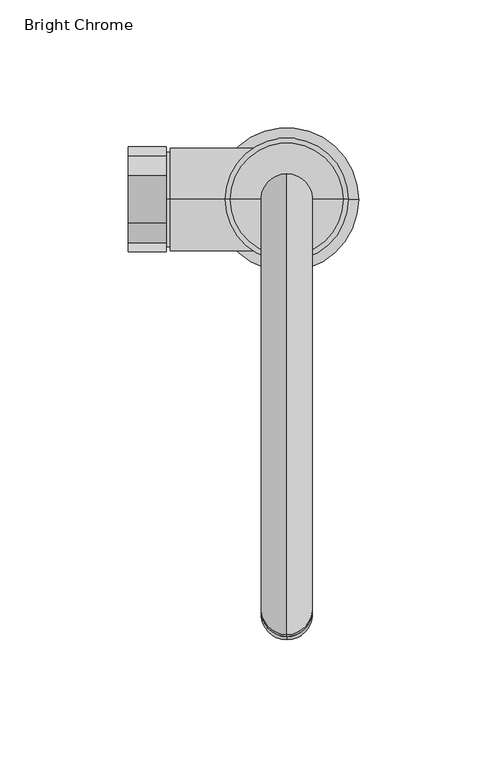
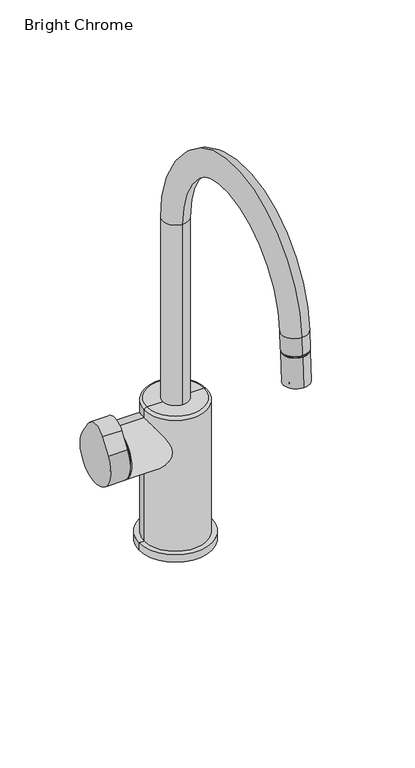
"""IFC4 building model written with IfcOpenShell, lengths in millimetres: flow terminal geometry, z_PlumFixt_Zip_Arc : Bright Chrome."""

from ifc_helpers import new_model, si_unit, point, frame, frame_2d, origin, place, context, project, spatial, polyline, circle_curve, ellipse_curve, trimmed, segment, composite_curve, outline, extrude, source, transform, mapped, element, save
from ifc_brep_helpers import plane_surface, cylinder_surface, revolved_surface, advanced_brep


def bright_chrome_7ff5033f(model_context):
    return source(origin(), model_context, "Body", "SolidModel", [
        extrude(outline(composite_curve([segment(trimmed(circle_curve(frame_2d((10.65, 87.5)), 6.35), [point((17.0, 87.5))], [point((4.3, 87.5))], False, "CARTESIAN"), True, "CONTINUOUS"), segment(trimmed(circle_curve(frame_2d((10.65, 87.5)), 6.35), [point((4.3, 87.5))], [point((17.0, 87.5))], False, "CARTESIAN"), True, "CONTINUOUS")], self_intersect=False)), frame((0.0, 0.0, -1.0), z_axis=(0.0, 0.0, 1.0), x_axis=(1.0, 0.0, 0.0)), (0.0, 0.0, 1.0), 1.0),
        extrude(outline(composite_curve([segment(trimmed(circle_curve(frame_2d((25.35, 87.5)), 6.35), [point((31.7, 87.5))], [point((19.0, 87.5))], False, "CARTESIAN"), True, "CONTINUOUS"), segment(trimmed(circle_curve(frame_2d((25.35, 87.5)), 6.35), [point((19.0, 87.5))], [point((31.7, 87.5))], False, "CARTESIAN"), True, "CONTINUOUS")], self_intersect=False)), frame((0.0, 0.0, -1.0), z_axis=(0.0, 0.0, 1.0), x_axis=(1.0, 0.0, 0.0)), (0.0, 0.0, 1.0), 1.0),
        advanced_brep(
        [(18.0, 87.5, 0.0), (46.0, 87.5, 0.0), (-10.0, 87.5, 0.0), (-4.0, 87.5, 115.0), (40.0, 87.5, 115.0), (18.0, 87.5, 115.0), (-6.0, 87.5, 6.0), (42.0, 87.5, 6.0), (42.0, 87.5, 113.0), (-6.0, 87.5, 113.0), (-10.0, 87.5, 6.0), (46.0, 87.5, 6.0)],
        [
            (0, 1),
            (1, 2, circle_curve(frame((18.0, 87.5, 0.0), z_axis=(0.0, 0.0, -1.0), x_axis=(1.0, 0.0, 0.0)), 28.0)),
            (2, 0),
            (2, 1, circle_curve(frame((18.0, 87.5, 0.0), z_axis=(0.0, 0.0, -1.0), x_axis=(1.0, 0.0, 0.0)), 28.0)),
            (3, 4, circle_curve(frame((18.0, 87.5, 115.0), z_axis=(0.0, 0.0, 1.0), x_axis=(1.0, 0.0, 0.0)), 22.0)),
            (4, 5),
            (5, 3),
            (4, 3, circle_curve(frame((18.0, 87.5, 115.0), z_axis=(0.0, 0.0, 1.0), x_axis=(1.0, 0.0, 0.0)), 22.0)),
            (6, 7, circle_curve(frame((18.0, 87.5, 6.0), z_axis=(0.0, 0.0, 1.0), x_axis=(1.0, 0.0, 0.0)), 24.0)),
            (7, 8),
            (8, 9, circle_curve(frame((18.0, 87.5, 113.0), z_axis=(0.0, 0.0, -1.0), x_axis=(1.0, 0.0, 0.0)), 24.0)),
            (9, 6),
            (7, 6, circle_curve(frame((18.0, 87.5, 6.0), z_axis=(0.0, 0.0, 1.0), x_axis=(1.0, 0.0, 0.0)), 24.0)),
            (9, 8, circle_curve(frame((18.0, 87.5, 113.0), z_axis=(0.0, 0.0, -1.0), x_axis=(1.0, 0.0, 0.0)), 24.0)),
            (10, 11, circle_curve(frame((18.0, 87.5, 6.0), z_axis=(0.0, 0.0, 1.0), x_axis=(1.0, 0.0, 0.0)), 28.0)),
            (11, 7),
            (6, 10),
            (11, 10, circle_curve(frame((18.0, 87.5, 6.0), z_axis=(0.0, 0.0, 1.0), x_axis=(1.0, 0.0, 0.0)), 28.0)),
            (1, 11),
            (10, 2),
            (8, 4, circle_curve(frame((40.0, 87.5, 113.0), z_axis=(0.0, -1.0, 0.0), x_axis=(-1.0, 0.0, 0.0)), 2.0)),
            (3, 9, circle_curve(frame((-4.0, 87.5, 113.0), z_axis=(0.0, -1.0, 0.0), x_axis=(1.0, 0.0, 0.0)), 2.0)),
        ],
        [
            plane_surface(frame((18.0, 87.5, 0.0), z_axis=(0.0, 0.0, -1.0), x_axis=(1.0, 0.0, 0.0))),
            plane_surface(frame((18.0, 87.5, 115.0), z_axis=(0.0, 0.0, 1.0), x_axis=(1.0, 0.0, 0.0))),
            cylinder_surface(frame((18.0, 87.5, 115.0), z_axis=(0.0, 0.0, -1.0), x_axis=(1.0, 0.0, 0.0)), 24.0),
            plane_surface(frame((18.0, 87.5, 6.0), z_axis=(0.0, 0.0, 1.0), x_axis=(1.0, 0.0, 0.0))),
            cylinder_surface(frame((18.0, 87.5, 115.0), z_axis=(0.0, 0.0, -1.0), x_axis=(1.0, 0.0, 0.0)), 28.0),
            revolved_surface(trimmed(ellipse_curve(frame((40.0, 87.5, 113.0), z_axis=(0.0, 1.0, 0.0), x_axis=(-1.0, 0.0, 0.0)), 2.0, 2.0), [point((40.0, 87.5, 115.0))], [point((42.0, 87.5, 113.0))], True, "CARTESIAN"), (18.0, 87.5, 115.0), (0.0, 0.0, -1.0)),
        ],
        [
            (0, [[1, 2, 3]]),
            (0, [[-3, 4, -1]]),
            (1, [[5, 6, 7]]),
            (1, [[8, -7, -6]]),
            (2, [[9, 10, 11, 12]]),
            (2, [[13, -12, 14, -10]]),
            (3, [[15, 16, -9, 17]]),
            (3, [[18, -17, -13, -16]]),
            (4, [[-2, 19, -15, 20]]),
            (4, [[-4, -20, -18, -19]]),
            (5, [[-11, 21, -5, 22]]),
            (5, [[-14, -22, -8, -21]]),
        ],
    ),
        advanced_brep(
        [(-29.0, 87.5, 68.3400719), (-29.0, 87.5, 105.4300145), (-29.0, 87.5, 86.8850432), (-27.497976, 87.5, 68.3400719), (-27.497976, 87.5, 105.4300145), (-27.497976, 87.5, 66.8850432), (-27.497976, 87.5, 106.8850432), (18.0, 87.5, 66.8850432), (18.0, 87.5, 106.8850432), (18.0, 87.5, 86.8850432)],
        [
            (0, 1, circle_curve(frame((-29.0, 87.5, 86.8850432), z_axis=(-1.0, 0.0, 0.0), x_axis=(0.0, 0.0, 1.0)), 18.5449713)),
            (1, 2),
            (2, 0),
            (1, 0, circle_curve(frame((-29.0, 87.5, 86.8850432), z_axis=(-1.0, 0.0, 0.0), x_axis=(0.0, 0.0, 1.0)), 18.5449713)),
            (3, 4, circle_curve(frame((-27.497976, 87.5, 86.8850432), z_axis=(-1.0, 0.0, 0.0), x_axis=(0.0, 0.0, 1.0)), 18.5449713)),
            (4, 1),
            (0, 3),
            (4, 3, circle_curve(frame((-27.497976, 87.5, 86.8850432), z_axis=(-1.0, 0.0, 0.0), x_axis=(0.0, 0.0, 1.0)), 18.5449713)),
            (5, 6, circle_curve(frame((-27.497976, 87.5, 86.8850432), z_axis=(-1.0, 0.0, 0.0), x_axis=(0.0, 0.0, 1.0)), 20.0)),
            (6, 4),
            (3, 5),
            (6, 5, circle_curve(frame((-27.497976, 87.5, 86.8850432), z_axis=(-1.0, 0.0, 0.0), x_axis=(0.0, 0.0, 1.0)), 20.0)),
            (7, 8, circle_curve(frame((18.0, 87.5, 86.8850432), z_axis=(-1.0, 0.0, 0.0), x_axis=(0.0, 0.0, 1.0)), 20.0)),
            (8, 6),
            (5, 7),
            (8, 7, circle_curve(frame((18.0, 87.5, 86.8850432), z_axis=(-1.0, 0.0, 0.0), x_axis=(0.0, 0.0, 1.0)), 20.0)),
            (9, 8),
            (7, 9),
        ],
        [
            plane_surface(frame((-29.0, 87.5, 86.8850432), z_axis=(-1.0, 0.0, 0.0), x_axis=(0.0, 0.0, 1.0))),
            cylinder_surface(frame((18.0, 87.5, 86.8850432), z_axis=(1.0, 0.0, 0.0), x_axis=(0.0, 0.0, 1.0)), 18.5449713),
            plane_surface(frame((-27.497976, 87.5, 86.8850432), z_axis=(-1.0, 0.0, 0.0), x_axis=(0.0, 0.0, 1.0))),
            cylinder_surface(frame((18.0, 87.5, 86.8850432), z_axis=(1.0, 0.0, 0.0), x_axis=(0.0, 0.0, 1.0)), 20.0),
            plane_surface(frame((18.0, 87.5, 86.8850432), z_axis=(1.0, 0.0, 0.0), x_axis=(0.0, 0.0, 1.0))),
        ],
        [
            (0, [[1, 2, 3]]),
            (0, [[4, -3, -2]]),
            (1, [[5, 6, -1, 7]]),
            (1, [[8, -7, -4, -6]]),
            (2, [[9, 10, -5, 11]]),
            (2, [[12, -11, -8, -10]]),
            (3, [[13, 14, -9, 15]]),
            (3, [[16, -15, -12, -14]]),
            (4, [[17, -13, 18]]),
            (4, [[-18, -16, -17]]),
        ],
    ),
        extrude(outline(composite_curve([segment(polyline([(70.594225, 98.9800754), (78.2342203, 110.1193323)]), True, "CONTINUOUS"), segment(trimmed(circle_curve(frame_2d((87.5, 103.7642842)), 11.2357158), [point((78.2342203, 110.1193323))], [point((96.7657797, 110.1193323))], False, "CARTESIAN"), True, "CONTINUOUS"), segment(polyline([(96.7657797, 110.1193323), (104.405775, 98.9800754)]), True, "CONTINUOUS"), segment(trimmed(circle_curve(frame_2d((87.5, 87.3850432)), 20.5), [point((104.405775, 98.9800754))], [point((70.594225, 98.9800754))], False, "CARTESIAN"), True, "CONTINUOUS")], self_intersect=False)), frame((-44.0, 0.0, 0.0), z_axis=(1.0, 0.0, 0.0), x_axis=(0.0, 1.0, 0.0)), (0.0, 0.0, 1.0), 15.0),
        advanced_brep(
        [(18.0, -79.5918454, 225.4357787), (18.0, -69.6114069, 224.9268554), (18.0, -74.6016262, 225.1813171), (18.0, -79.499465, 227.2474409), (18.0, -69.5190265, 226.7385176), (18.0, -84.4896842, 227.5019026), (18.0, -64.5288073, 226.484056), (18.0, -83.2620828, 251.576256), (18.0, -63.3012059, 250.5584093), (18.0, -82.1869915, 253.0233837), (18.0, -64.2235195, 252.1073889), (18.0, -64.2999083, 250.6093353), (18.0, -82.2633804, 251.5253301), (18.0, -73.2052555, 252.5653863)],
        [
            (0, 1, circle_curve(frame((18.0, -74.6016262, 225.1813171), z_axis=(0.0, -0.05092591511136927, -0.9987024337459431), x_axis=(0.0, 0.9987024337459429, -0.050925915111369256)), 4.9967028)),
            (1, 2),
            (2, 0),
            (1, 0, circle_curve(frame((18.0, -74.6016262, 225.1813171), z_axis=(0.0, -0.05092591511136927, -0.9987024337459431), x_axis=(0.0, 0.9987024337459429, -0.050925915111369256)), 4.9967028)),
            (3, 4, circle_curve(frame((18.0, -74.5092457, 226.9929793), z_axis=(0.0, -0.05092591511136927, -0.9987024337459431), x_axis=(0.0, 0.9987024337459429, -0.050925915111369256)), 4.9967028)),
            (4, 1),
            (0, 3),
            (4, 3, circle_curve(frame((18.0, -74.5092457, 226.9929793), z_axis=(0.0, -0.05092591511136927, -0.9987024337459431), x_axis=(0.0, 0.9987024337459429, -0.050925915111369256)), 4.9967028)),
            (5, 6, circle_curve(frame((18.0, -74.5092457, 226.9929793), z_axis=(0.0, -0.05092591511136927, -0.9987024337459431), x_axis=(0.0, 0.9987024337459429, -0.050925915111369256)), 9.9934056)),
            (6, 4),
            (3, 5),
            (6, 5, circle_curve(frame((18.0, -74.5092457, 226.9929793), z_axis=(0.0, -0.05092591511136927, -0.9987024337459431), x_axis=(0.0, 0.9987024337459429, -0.050925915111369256)), 9.9934056)),
            (7, 8, circle_curve(frame((18.0, -73.2816444, 251.0673327), z_axis=(0.0, -0.05092591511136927, -0.9987024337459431), x_axis=(0.0, 0.9987024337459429, -0.050925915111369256)), 9.9934056)),
            (8, 6),
            (5, 7),
            (8, 7, circle_curve(frame((18.0, -73.2816444, 251.0673327), z_axis=(0.0, -0.05092591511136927, -0.9987024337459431), x_axis=(0.0, 0.9987024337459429, -0.050925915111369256)), 9.9934056)),
            (9, 10, circle_curve(frame((18.0, -73.2052555, 252.5653863), z_axis=(0.0, -0.05092591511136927, -0.9987024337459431), x_axis=(0.0, 0.9987024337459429, -0.050925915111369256)), 8.9934056)),
            (10, 11),
            (11, 12, circle_curve(frame((18.0, -73.2816444, 251.0673327), z_axis=(0.0, 0.05092591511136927, 0.9987024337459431), x_axis=(0.0, 0.9987024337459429, -0.050925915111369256)), 8.9934056)),
            (12, 9),
            (10, 9, circle_curve(frame((18.0, -73.2052555, 252.5653863), z_axis=(0.0, -0.05092591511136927, -0.9987024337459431), x_axis=(0.0, 0.9987024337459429, -0.050925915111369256)), 8.9934056)),
            (12, 11, circle_curve(frame((18.0, -73.2816444, 251.0673327), z_axis=(0.0, 0.05092591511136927, 0.9987024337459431), x_axis=(0.0, 0.9987024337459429, -0.050925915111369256)), 8.9934056)),
            (13, 10),
            (9, 13),
            (11, 8),
            (7, 12),
        ],
        [
            plane_surface(frame((18.0, -74.6016262, 225.1813171), z_axis=(0.0, -0.05092591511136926, -0.998702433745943), x_axis=(0.0, 0.998702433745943, -0.05092591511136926))),
            cylinder_surface(frame((18.0, -72.1955758, 272.366101), z_axis=(0.0, 0.050925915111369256, 0.9987024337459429), x_axis=(0.0, 0.9987024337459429, -0.050925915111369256)), 4.9967028),
            plane_surface(frame((18.0, -74.5092457, 226.9929793), z_axis=(0.0, -0.05092591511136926, -0.998702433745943), x_axis=(0.0, 0.998702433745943, -0.05092591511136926))),
            cylinder_surface(frame((18.0, -72.1955758, 272.366101), z_axis=(0.0, 0.050925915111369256, 0.9987024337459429), x_axis=(0.0, 0.9987024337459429, -0.050925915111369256)), 9.9934056),
            cylinder_surface(frame((18.0, -72.1955758, 272.366101), z_axis=(0.0, 0.050925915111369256, 0.9987024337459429), x_axis=(0.0, 0.9987024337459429, -0.050925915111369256)), 8.9934056),
            plane_surface(frame((18.0, -73.2052555, 252.5653863), z_axis=(0.0, 0.05092591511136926, 0.998702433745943), x_axis=(0.0, 0.998702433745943, -0.05092591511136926))),
            plane_surface(frame((18.0, -73.2816444, 251.0673327), z_axis=(0.0, 0.05092591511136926, 0.998702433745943), x_axis=(0.0, 0.998702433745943, -0.05092591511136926))),
        ],
        [
            (0, [[1, 2, 3]]),
            (0, [[4, -3, -2]]),
            (1, [[5, 6, -1, 7]]),
            (1, [[8, -7, -4, -6]]),
            (2, [[9, 10, -5, 11]]),
            (2, [[12, -11, -8, -10]]),
            (3, [[13, 14, -9, 15]]),
            (3, [[16, -15, -12, -14]]),
            (4, [[17, 18, 19, 20]]),
            (4, [[21, -20, 22, -18]]),
            (5, [[23, -17, 24]]),
            (5, [[-24, -21, -23]]),
            (6, [[-19, 25, -13, 26]]),
            (6, [[-22, -26, -16, -25]]),
        ],
    ),
        advanced_brep(
        [(18.0, 97.5, 115.0), (18.0, 77.5, 115.0), (18.0, 97.5, 262.7559735), (18.0, 77.5, 262.7559735), (18.0, -83.1922798, 253.0746455), (18.0, -63.2182312, 252.0561272), (18.0, -62.4907405, 266.3228659), (18.0, -82.4647891, 267.3413842)],
        [
            (0, 1, circle_curve(frame((18.0, 87.5, 115.0), z_axis=(0.0, 0.0, -1.0), x_axis=(0.0, -1.0, 0.0)), 10.0)),
            (1, 0, circle_curve(frame((18.0, 87.5, 115.0), z_axis=(0.0, 0.0, -1.0), x_axis=(0.0, -1.0, 0.0)), 10.0)),
            (0, 2),
            (2, 3, circle_curve(frame((18.0, 87.5, 262.7559735), z_axis=(0.0, 0.0, -1.0), x_axis=(0.0, -1.0, 0.0)), 10.0)),
            (3, 1),
            (3, 2, circle_curve(frame((18.0, 87.5, 262.7559735), z_axis=(0.0, 0.0, -1.0), x_axis=(0.0, -1.0, 0.0)), 10.0)),
            (4, 5, circle_curve(frame((18.0, -73.2052555, 252.5653863), z_axis=(0.0, -0.050925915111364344, -0.9987024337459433), x_axis=(0.0, 0.9987024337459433, -0.050925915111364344)), 10.0)),
            (5, 4, circle_curve(frame((18.0, -73.2052555, 252.5653863), z_axis=(0.0, -0.050925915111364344, -0.9987024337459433), x_axis=(0.0, 0.9987024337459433, -0.050925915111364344)), 10.0)),
            (6, 3, circle_curve(frame((18.0, 7.4591885, 262.7559735), z_axis=(-1.0, 0.0, 0.0), x_axis=(0.0, 1.0, 0.0)), 70.0408115)),
            (2, 7, circle_curve(frame((18.0, 7.4591885, 262.7559735), z_axis=(1.0, 0.0, 0.0), x_axis=(0.0, 1.0, 0.0)), 90.0408115)),
            (7, 6, circle_curve(frame((18.0, -72.4777648, 266.8321251), z_axis=(0.0, 0.050925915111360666, 0.9987024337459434), x_axis=(0.0, 0.9987024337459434, -0.050925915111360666)), 10.0)),
            (6, 7, circle_curve(frame((18.0, -72.4777648, 266.8321251), z_axis=(0.0, 0.05092591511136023, 0.9987024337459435), x_axis=(0.0, 0.9987024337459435, -0.05092591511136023)), 10.0)),
            (7, 4),
            (5, 6),
        ],
        [
            plane_surface(frame((18.0, 87.5, 115.0), z_axis=(0.0, 0.0, -1.0), x_axis=(1.0, 0.0, 0.0))),
            cylinder_surface(frame((18.0, 87.5, 115.0), z_axis=(0.0, 0.0, -1.0), x_axis=(0.0, -1.0, 0.0)), 10.0),
            plane_surface(frame((18.0, -73.2052555, 252.5653863), z_axis=(0.0, -0.050925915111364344, -0.9987024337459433), x_axis=(1.0, 0.0, 0.0))),
            revolved_surface(trimmed(ellipse_curve(frame((18.0, 87.5, 262.7559735), z_axis=(0.0, 0.0, -1.0), x_axis=(0.0, -1.0, 0.0)), 10.0, 10.0), [point((18.0, 97.5, 262.7559735))], [point((18.0, 77.5, 262.7559735))], True, "CARTESIAN"), (18.0, 7.4591885, 262.7559735), (1.0, 0.0, 0.0)),
            revolved_surface(trimmed(ellipse_curve(frame((18.0, 87.5, 262.7559735), z_axis=(0.0, 0.0, -1.0), x_axis=(0.0, -1.0, 0.0)), 10.0, 10.0), [point((18.0, 77.5, 262.7559735))], [point((18.0, 97.5, 262.7559735))], True, "CARTESIAN"), (18.0, 7.4591885, 262.7559735), (1.0, 0.0, 0.0)),
            cylinder_surface(frame((18.0, -72.4777648, 266.8321251), z_axis=(0.0, 0.050925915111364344, 0.9987024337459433), x_axis=(0.0, 0.9987024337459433, -0.050925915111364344)), 10.0),
        ],
        [
            (0, [[1, 2]]),
            (1, [[-1, 3, 4, 5]]),
            (1, [[-2, -5, 6, -3]]),
            (2, [[7, 8]]),
            (3, [[9, -4, 10, 11]]),
            (4, [[-10, -6, -9, 12]]),
            (5, [[-11, 13, -8, 14]]),
            (5, [[-12, -14, -7, -13]]),
        ],
    ),
    ])


if __name__ == "__main__":
    model = new_model("IFC4")
    model_context = context("Model", 3, world=origin())
    ifc_project = project(units=[si_unit("LENGTHUNIT", "METRE", prefix="MILLI")], contexts=[model_context])
    site = spatial("IfcSite", under=ifc_project)
    building = spatial("IfcBuilding", under=site)
    placement = place(None, origin())
    bright_chrome_shape = bright_chrome_7ff5033f(model_context)
    element("IfcFlowTerminal", 1, ObjectType="z_PlumFixt_Zip_Arc : Bright Chrome", at=placement, inside=building, context=model_context, shape_type="MappedRepresentation", body=[
        mapped(bright_chrome_shape, transform((0.0, 0.0, 0.0), x_axis=(1.0, 0.0, 0.0), y_axis=(0.0, 1.0, 0.0), z_axis=(0.0, 0.0, 1.0))),
    ])
    save(model, "model.ifc")
